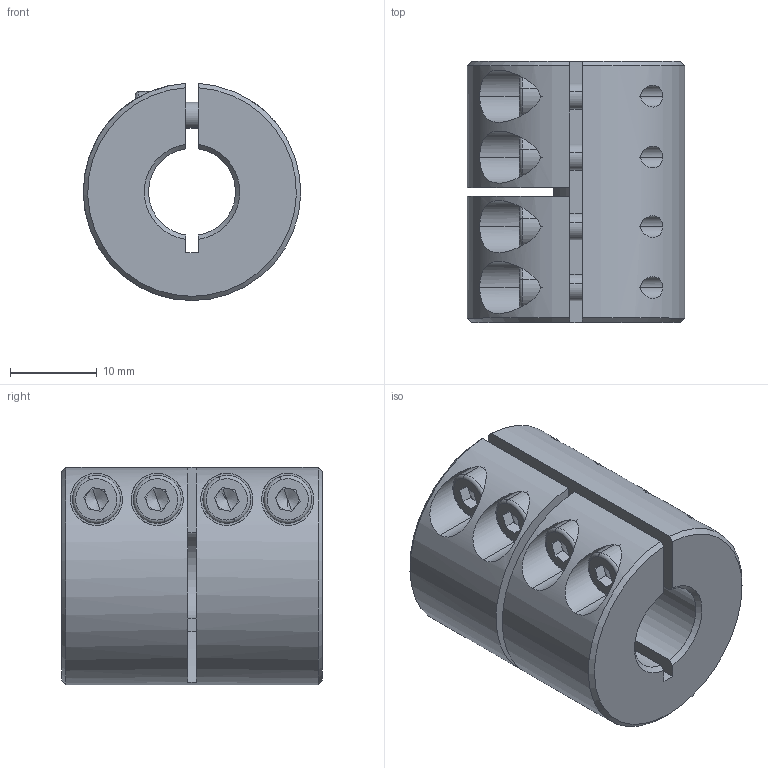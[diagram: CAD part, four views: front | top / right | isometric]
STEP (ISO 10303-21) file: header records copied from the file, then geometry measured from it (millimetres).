
FILE_DESCRIPTION (( 'STEP AP214' ), '1' );
FILE_NAME ('LL-B-D25L30-10-10½¨Ä£.STEP', '2022-07-21T03:19:17', ( '' ), ( '' ), 'SwSTEP 2.0', 'SolidWorks 2022', '' );
FILE_SCHEMA (( 'AUTOMOTIVE_DESIGN' ));
Length unit declared in the file: millimetre
Products named in the file (1): LL-B-D25L30-10-10膘耀
Bounding box: 24.99 x 30 x 24.98 mm (x, y, z)
Volume: 11329.7 mm3; surface area: 5894.8 mm2
Topology: 1 solids, 1 shells, 162 faces, 412 edges, 260 vertices
Faces by surface type: plane 82, cylinder 57, cone 15, torus 8
Entity records: 5334 total; most frequent: CARTESIAN_POINT 1351, DIRECTION 850, ORIENTED_EDGE 808, EDGE_CURVE 404, AXIS2_PLACEMENT_3D 327, VERTEX_POINT 260, VECTOR 196, LINE 196
